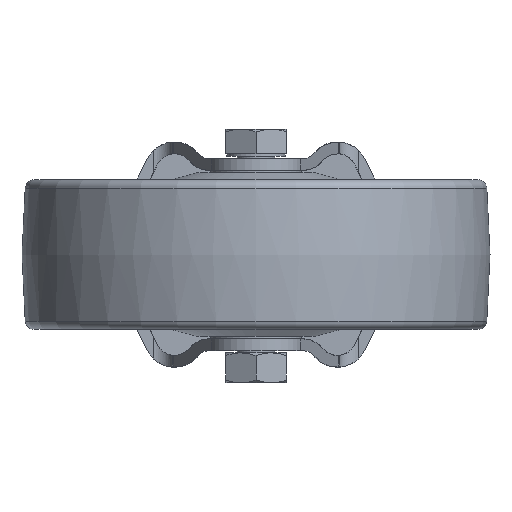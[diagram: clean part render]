
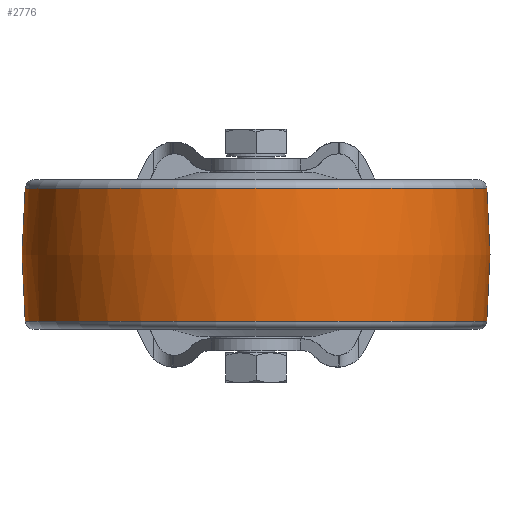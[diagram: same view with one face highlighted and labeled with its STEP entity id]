
A CAD part, front view. The second image highlights one B-rep face of the part: STEP entity #2776.
In plain terms, the highlighted toroidal (fillet/blend) face has major radius 100 mm and minor radius 150 mm.
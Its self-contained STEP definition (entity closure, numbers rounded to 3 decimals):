
#38=DEGENERATE_TOROIDAL_SURFACE('',#3083,100.,150.,
 .F.);
#577=CIRCLE('',#3084,49.327);
#578=CIRCLE('',#3085,49.327);
#903=ORIENTED_EDGE('',*,*,#1554,.T.);
#904=ORIENTED_EDGE('',*,*,#1555,.F.);
#1554=EDGE_CURVE('',#1905,#1905,#577,.T.);
#1555=EDGE_CURVE('',#1906,#1906,#578,.T.);
#1905=VERTEX_POINT('',#4598);
#1906=VERTEX_POINT('',#4600);
#2253=EDGE_LOOP('',(#903));
#2254=EDGE_LOOP('',(#904));
#2519=FACE_BOUND('',#2253,.T.);
#2520=FACE_BOUND('',#2254,.T.);
#2776=ADVANCED_FACE('',(#2519,#2520),#38,.F.);
#3083=AXIS2_PLACEMENT_3D('',#4596,#3608,#3609);
#3084=AXIS2_PLACEMENT_3D('',#4597,#3610,#3611);
#3085=AXIS2_PLACEMENT_3D('',#4599,#3612,#3613);
#3608=DIRECTION('',(0.,1.,0.));
#3609=DIRECTION('',(0.,0.,1.));
#3610=DIRECTION('',(0.,1.,0.));
#3611=DIRECTION('',(0.,0.,1.));
#3612=DIRECTION('',(0.,1.,0.));
#3613=DIRECTION('',(0.,0.,1.));
#4596=CARTESIAN_POINT('',(0.,0.,0.));
#4597=CARTESIAN_POINT('',(0.,-14.189,0.));
#4598=CARTESIAN_POINT('',(0.,-14.189,49.327));
#4599=CARTESIAN_POINT('',(0.,14.189,0.));
#4600=CARTESIAN_POINT('',(0.,14.189,49.327));
